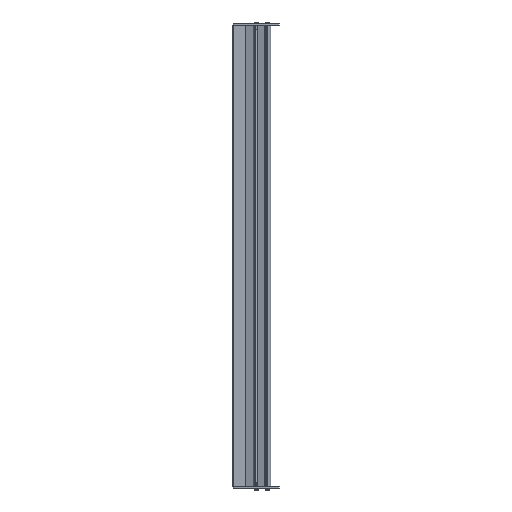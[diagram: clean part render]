
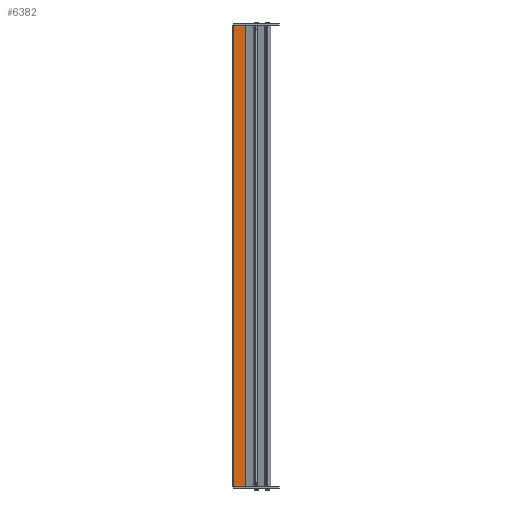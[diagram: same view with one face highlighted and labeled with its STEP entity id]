
A CAD part, left-side view. The second image highlights one B-rep face of the part: STEP entity #6382.
In plain terms, the highlighted planar face has unit normal (-1, 0, 0) as drawn and (1, 0, 0) by its records, which use the part's own axes.
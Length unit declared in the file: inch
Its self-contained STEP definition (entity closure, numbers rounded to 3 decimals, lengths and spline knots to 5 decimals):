
#5247=DIRECTION('',(0.,-1.,0.));
#5248=VECTOR('',#5247,0.88707);
#5249=CARTESIAN_POINT('',(0.048,0.904,-18.118));
#5250=LINE('',#5249,#5248);
#5277=DIRECTION('',(0.,0.,-1.));
#5278=VECTOR('',#5277,36.236);
#5279=CARTESIAN_POINT('',(0.048,0.904,18.118));
#5280=LINE('',#5279,#5278);
#5285=DIRECTION('',(0.,-1.,0.));
#5286=VECTOR('',#5285,0.88707);
#5287=CARTESIAN_POINT('',(0.048,0.904,18.118));
#5288=LINE('',#5287,#5286);
#5293=DIRECTION('',(0.,0.,1.));
#5294=VECTOR('',#5293,36.236);
#5295=CARTESIAN_POINT('',(0.048,0.01693,-18.118));
#5296=LINE('',#5295,#5294);
#5939=CARTESIAN_POINT('',(0.048,0.904,18.118));
#5940=CARTESIAN_POINT('',(0.048,0.904,-18.118));
#5941=VERTEX_POINT('',#5939);
#5942=VERTEX_POINT('',#5940);
#6079=CARTESIAN_POINT('',(0.048,0.01693,-18.118));
#6080=VERTEX_POINT('',#6079);
#6125=CARTESIAN_POINT('',(0.048,0.01693,18.118));
#6126=VERTEX_POINT('',#6125);
#6370=CARTESIAN_POINT('',(0.048,0.,18.118));
#6371=DIRECTION('',(-1.,0.,0.));
#6372=DIRECTION('',(0.,0.,1.));
#6373=AXIS2_PLACEMENT_3D('',#6370,#6371,#6372);
#6374=PLANE('',#6373);
#6375=ORIENTED_EDGE('',*,*,#6309,.T.);
#6377=ORIENTED_EDGE('',*,*,#6376,.T.);
#6378=ORIENTED_EDGE('',*,*,#6337,.F.);
#6379=ORIENTED_EDGE('',*,*,#6363,.T.);
#6380=EDGE_LOOP('',(#6375,#6377,#6378,#6379));
#6381=FACE_OUTER_BOUND('',#6380,.F.);
#6309=EDGE_CURVE('',#5942,#6080,#5250,.T.);
#6337=EDGE_CURVE('',#5941,#6126,#5288,.T.);
#6363=EDGE_CURVE('',#5941,#5942,#5280,.T.);
#6376=EDGE_CURVE('',#6080,#6126,#5296,.T.);
#6382=ADVANCED_FACE('',(#6381),#6374,.F.);
